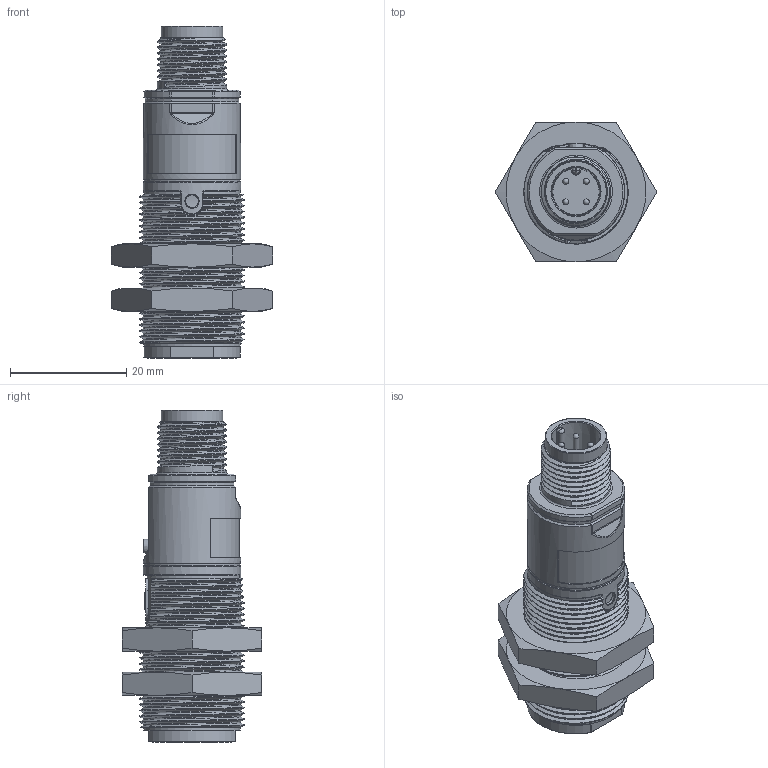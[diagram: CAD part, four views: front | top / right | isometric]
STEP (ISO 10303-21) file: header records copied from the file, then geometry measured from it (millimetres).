
FILE_DESCRIPTION(/* description */ (''),/* implementation_level */ '2;1');
FILE_NAME(/* name */ '3DCAD_BR328_M12.stp',/* time_stamp */ '2013-11-18T13:25:17+01:00',/* author */ (''),/* organization */ (''),/* preprocessor_version */ 'ST-DEVELOPER v15',/* originating_system */ 'SIEMENS PLM Software NX 8.5',/* authorisation */ '');
FILE_SCHEMA (('AUTOMOTIVE_DESIGN { 1 0 10303 214 3 1 1 1 }'));
Products named in the file (1): 005031_00.0
Bounding box: 27.71 x 24 x 57 mm (x, y, z)
Volume: 13009.7 mm3; surface area: 5747.1 mm2
Topology: 1 solids, 1 shells, 356 faces, 901 edges, 558 vertices
Faces by surface type: cylinder 113, plane 92, bspline 64, cone 57, torus 22, sphere 8
Full cylindrical faces by diameter (mm): 1 x4, 2.2 x1, 3.4 x1, 4 x2, 10.6 x1, 11.9 x7, 16.65 x1, 16.7 x1
Entity records: 74209 total; most frequent: CARTESIAN_POINT 66251, ORIENTED_EDGE 1644, DIRECTION 1313, EDGE_CURVE 822, AXIS2_PLACEMENT_3D 540, VERTEX_POINT 525, EDGE_LOOP 398, ADVANCED_FACE 349
